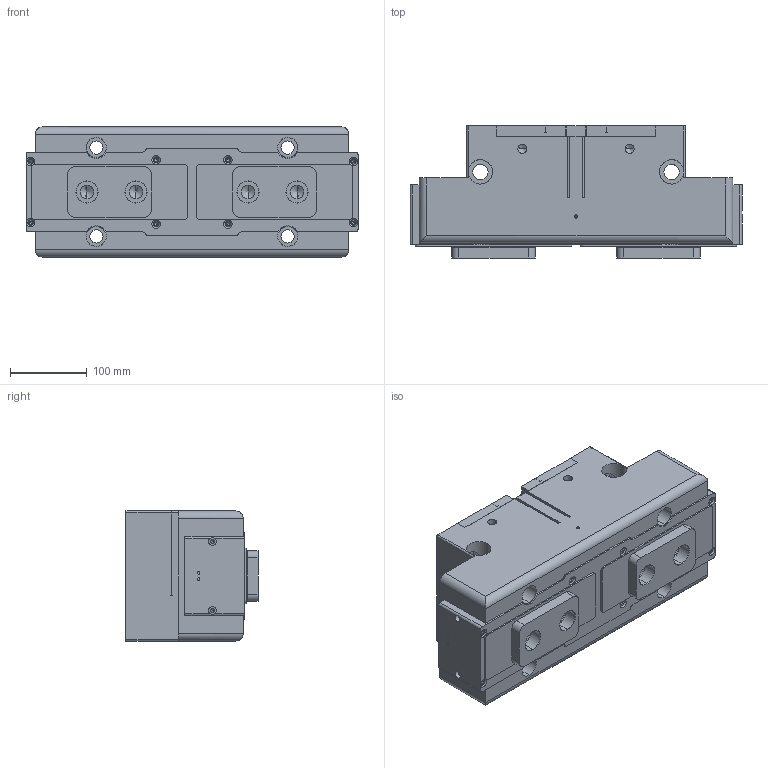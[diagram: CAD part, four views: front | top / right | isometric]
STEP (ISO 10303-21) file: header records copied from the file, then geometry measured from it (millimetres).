
FILE_DESCRIPTION (( 'STEP AP214' ), '1' );
FILE_NAME ('TWN-380A-2-SD.STEP', '2019-12-10T08:36:49', ( '' ), ( '' ), 'SwSTEP 2.0', 'SolidWorks 2016', '' );
FILE_SCHEMA (( 'AUTOMOTIVE_DESIGN' ));
Length unit declared in the file: millimetre
Products named in the file (7): TWN-380A-2-SD-06; TWN-380A-2-SD-03; TWN-380A-2-SD-02; TWN-380A-2-SD-04; TWN-380A-2-SD-01; TWN-380A-2-SD; TWN-380A-2-SD-05
Assembly tree (9 placements, depth 2):
  TWN-380A-2-SD
    TWN-380A-2-SD-01
    TWN-380A-2-SD-03
    TWN-380A-2-SD-02  x2
    TWN-380A-2-SD-04
    TWN-380A-2-SD-05  x2
    TWN-380A-2-SD-06  x2
Bounding box: 433.8 x 172.5 x 170 mm (x, y, z)
Volume: 8838629.7 mm3; surface area: 868051.5 mm2
Topology: 9 solids, 12 shells, 684 faces, 1830 edges, 1160 vertices
Faces by surface type: cylinder 300, plane 276, cone 108
Entity records: 20006 total; most frequent: CARTESIAN_POINT 3991, DIRECTION 3198, ORIENTED_EDGE 2964, EDGE_CURVE 1482, AXIS2_PLACEMENT_3D 1169, VERTEX_POINT 978, VECTOR 860, LINE 860
